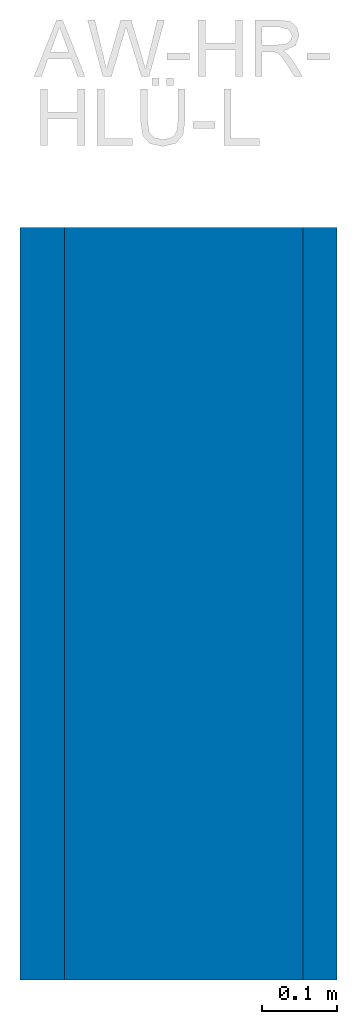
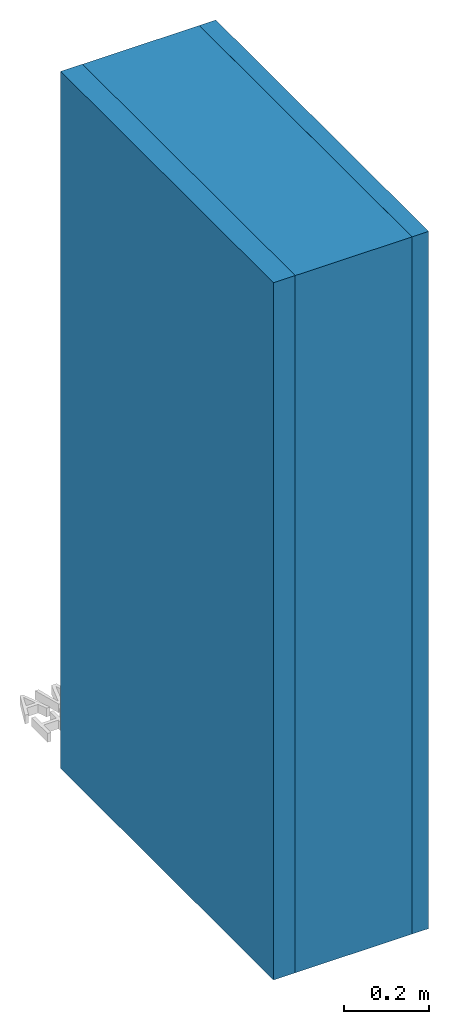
# Not in any storey, part 1 of 2: 3 walls, 1 element without a shape of its own.
"""IFC4 model written with IfcOpenShell, lengths in metres."""

from ifc_helpers import new_model, entity, si_unit, converted_unit, derived_unit, direction, frame, origin, place, context, subcontext, project, spatial, indexed_curve, outline, extrude, material, constituent, constituent_set, type_object, element, aggregate, save


model = new_model("IFC4")

# Units and contexts
model_context = context("Model", 3, precision=1e-05, world=origin(), true_north=direction((6.123031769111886e-17, 1.0)))
body_context = subcontext(model_context, "Body", "Model", "MODEL_VIEW")
ifc_project = project(units=[si_unit("LENGTHUNIT", "METRE"), si_unit("AREAUNIT", "SQUARE_METRE"), si_unit("VOLUMEUNIT", "CUBIC_METRE"), converted_unit("PLANEANGLEUNIT", "DEGREE", entity("IfcRatioMeasure", 0.017453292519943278), si_unit("PLANEANGLEUNIT", "RADIAN"), dimensions=[0, 0, 0, 0, 0, 0, 0]), si_unit("MASSUNIT", "GRAM", prefix="KILO"), derived_unit("MASSDENSITYUNIT", [(si_unit("MASSUNIT", "GRAM", prefix="KILO"), 1), (si_unit("LENGTHUNIT", "METRE"), -3)]), derived_unit("IONCONCENTRATIONUNIT", [(si_unit("MASSUNIT", "GRAM", prefix="KILO"), 1), (si_unit("LENGTHUNIT", "METRE"), -3)]), derived_unit("MOMENTOFINERTIAUNIT", [(si_unit("LENGTHUNIT", "METRE"), 4)]), si_unit("TIMEUNIT", "SECOND"), si_unit("FREQUENCYUNIT", "HERTZ"), si_unit("THERMODYNAMICTEMPERATUREUNIT", "DEGREE_CELSIUS"), derived_unit("THERMALTRANSMITTANCEUNIT", [(si_unit("MASSUNIT", "GRAM", prefix="KILO"), 1), (si_unit("THERMODYNAMICTEMPERATUREUNIT", "KELVIN"), -1), (si_unit("TIMEUNIT", "SECOND"), -3)]), derived_unit("THERMALCONDUCTANCEUNIT", [(si_unit("MASSUNIT", "GRAM", prefix="KILO"), 1), (si_unit("THERMODYNAMICTEMPERATUREUNIT", "KELVIN"), -1), (si_unit("TIMEUNIT", "SECOND"), -3), (si_unit("LENGTHUNIT", "METRE"), 1)]), derived_unit("VOLUMETRICFLOWRATEUNIT", [(si_unit("LENGTHUNIT", "METRE"), 3), (si_unit("TIMEUNIT", "SECOND"), -1)]), derived_unit("MASSFLOWRATEUNIT", [(si_unit("MASSUNIT", "GRAM", prefix="KILO"), 1), (si_unit("TIMEUNIT", "SECOND"), -1)]), derived_unit("ROTATIONALFREQUENCYUNIT", [(si_unit("TIMEUNIT", "SECOND"), -1)]), si_unit("ELECTRICCURRENTUNIT", "AMPERE"), si_unit("ELECTRICVOLTAGEUNIT", "VOLT"), si_unit("POWERUNIT", "WATT"), si_unit("FORCEUNIT", "NEWTON", prefix="KILO"), si_unit("ILLUMINANCEUNIT", "LUX"), si_unit("LUMINOUSFLUXUNIT", "LUMEN"), si_unit("LUMINOUSINTENSITYUNIT", "CANDELA"), derived_unit("USERDEFINED", [(si_unit("MASSUNIT", "GRAM", prefix="KILO"), -1), (si_unit("LENGTHUNIT", "METRE"), -2), (si_unit("TIMEUNIT", "SECOND"), 3), (si_unit("LUMINOUSFLUXUNIT", "LUMEN"), 1)]), derived_unit("USERDEFINED", [(si_unit("MASSUNIT", "GRAM", prefix="KILO"), 1), (si_unit("TIMEUNIT", "SECOND"), -3), (si_unit("LENGTHUNIT", "METRE"), 3), (si_unit("ELECTRICCURRENTUNIT", "AMPERE"), -2)]), derived_unit("SOUNDPOWERUNIT", [(si_unit("MASSUNIT", "GRAM", prefix="KILO"), 1), (si_unit("TIMEUNIT", "SECOND"), -3), (si_unit("LENGTHUNIT", "METRE"), 2)]), derived_unit("SOUNDPRESSUREUNIT", [(si_unit("MASSUNIT", "GRAM", prefix="KILO"), 1), (si_unit("LENGTHUNIT", "METRE"), -1), (si_unit("TIMEUNIT", "SECOND"), -2)]), derived_unit("LINEARVELOCITYUNIT", [(si_unit("LENGTHUNIT", "METRE"), 1), (si_unit("TIMEUNIT", "SECOND"), -1)]), si_unit("PRESSUREUNIT", "PASCAL"), derived_unit("USERDEFINED", [(si_unit("MASSUNIT", "GRAM", prefix="KILO"), 1), (si_unit("LENGTHUNIT", "METRE"), -2), (si_unit("TIMEUNIT", "SECOND"), -2)]), derived_unit("LINEARFORCEUNIT", [(si_unit("MASSUNIT", "GRAM", prefix="KILO"), 1), (si_unit("TIMEUNIT", "SECOND"), -2)]), derived_unit("PLANARFORCEUNIT", [(si_unit("MASSUNIT", "GRAM", prefix="KILO"), 1), (si_unit("LENGTHUNIT", "METRE"), -1), (si_unit("TIMEUNIT", "SECOND"), -2)]), derived_unit("SPECIFICHEATCAPACITYUNIT", [(si_unit("THERMODYNAMICTEMPERATUREUNIT", "KELVIN"), -1), (si_unit("LENGTHUNIT", "METRE"), 2), (si_unit("TIMEUNIT", "SECOND"), -2)]), derived_unit("HEATINGVALUEUNIT", [(si_unit("LENGTHUNIT", "METRE"), 2), (si_unit("TIMEUNIT", "SECOND"), -2)]), derived_unit("VAPORPERMEABILITYUNIT", [(si_unit("LENGTHUNIT", "METRE"), -1), (si_unit("TIMEUNIT", "SECOND"), 1)]), derived_unit("DYNAMICVISCOSITYUNIT", [(si_unit("MASSUNIT", "GRAM", prefix="KILO"), 1), (si_unit("TIMEUNIT", "SECOND"), -1), (si_unit("LENGTHUNIT", "METRE"), -1)]), derived_unit("THERMALEXPANSIONCOEFFICIENTUNIT", [(si_unit("THERMODYNAMICTEMPERATUREUNIT", "KELVIN"), -1)]), derived_unit("MODULUSOFELASTICITYUNIT", [(si_unit("MASSUNIT", "GRAM", prefix="KILO"), 1), (si_unit("LENGTHUNIT", "METRE"), -1), (si_unit("TIMEUNIT", "SECOND"), -2)]), derived_unit("ISOTHERMALMOISTURECAPACITYUNIT", [(si_unit("LENGTHUNIT", "METRE"), 3), (si_unit("MASSUNIT", "GRAM", prefix="KILO"), -1)]), derived_unit("MOISTUREDIFFUSIVITYUNIT", [(si_unit("TIMEUNIT", "SECOND"), -1), (si_unit("LENGTHUNIT", "METRE"), 2)])], contexts=[model_context])

# Site
site_placement = place(None, origin())
site = spatial("IfcSite", under=ifc_project, at=site_placement, Name="Default", CompositionType="ELEMENT")

# Assembly, walls
assembly_placement = place(site_placement, origin())
assembly = element("IfcElementAssembly", 1, at=assembly_placement, inside=site, Name="Wände Baugruppe:fbimSg_Wall_bc_WOD_vis_at_NTR_natuREbuilt_AW-HR-HLÜ-L_GK3_42cm", ObjectType="Wände Baugruppe:fbimSg_Wall_bc_WOD_vis_at_NTR_natuREbuilt_AW-HR-HLÜ-L_GK3_42cm", AssemblyPlace="NOTDEFINED", PredefinedType="USERDEFINED")
ifc_material_1 = material(Name="fbim_12400515_AT_025_Vollholz_Bretter_Fichte")
ifc_constituent_1 = constituent(ifc_material_1, Name="fbim_12400515_AT_025_Vollholz_Bretter_Fichte")
ifc_material_2 = material(Name="fbim_14100590_AT_001_Luftschicht")
ifc_constituent_2 = constituent(ifc_material_2, Name="fbim_14100590_AT_001_Luftschicht")
ifc_constituent_set_1 = constituent_set(constituents=[ifc_constituent_1, ifc_constituent_2], Name="Basiswand:fbimSg_Wall_dp_WOD_vis_at_NTR_natuREbuilt_AWRh-I_GK3_a_4cm")
wall_type_1 = type_object("IfcWallType", Name="Basiswand:fbimSg_Wall_dp_WOD_vis_at_NTR_natuREbuilt_AWRh-I_GK3_a_4cm", PredefinedType="STANDARD", material=ifc_constituent_set_1)
wall_1_placement = place(assembly_placement, frame((3.2522948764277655, 47.65434946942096, 0.0), z_axis=(0.0, 0.0, 1.0), x_axis=(0.0, -1.0, 0.0)))
wall_1 = element("IfcWall", 2, at=wall_1_placement, type_object=wall_type_1, material=ifc_constituent_set_1, Name="Basiswand:fbimSg_Wall_dp_WOD_vis_at_NTR_natuREbuilt_AWRh-I_GK3_a_4cm", ObjectType="Basiswand:fbimSg_Wall_dp_WOD_vis_at_NTR_natuREbuilt_AWRh-I_GK3_a_4cm", PredefinedType="NOTDEFINED", context=body_context, shape_type="SweptSolid", body=[
    extrude(outline(indexed_curve([(-0.020000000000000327, -0.49999999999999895), (0.019999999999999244, -0.4999999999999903), (0.020000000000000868, 0.49999999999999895), (-0.019999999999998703, 0.49999999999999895), (-0.020000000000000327, -0.49999999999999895)], self_intersect=False)), frame((0.49999999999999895, 0.009500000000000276, 0.0), z_axis=(0.0, 0.0, 1.0), x_axis=(0.0, -1.0, 0.0)), (0.0, 0.0, 1.0), 1.9999999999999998),
    extrude(outline(indexed_curve([(-0.00950000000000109, -0.49999999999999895), (0.009499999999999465, -0.49999999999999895), (0.00950000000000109, 0.49999999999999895), (-0.009499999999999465, 0.49999999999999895), (-0.00950000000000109, -0.49999999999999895)], self_intersect=False)), frame((0.49999999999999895, -0.02000000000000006, 0.0), z_axis=(0.0, 0.0, 1.0), x_axis=(0.0, 1.0, 0.0)), (0.0, 0.0, 1.0), 1.9999999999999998),
])
ifc_constituent_3 = constituent(ifc_material_1, Name="fbim_12400515_AT_025_Vollholz_Bretter_Fichte")
ifc_material_3 = material(Name="fbim_14100500_at_NTR_Zellulose-Einblasdaemmung")
ifc_constituent_4 = constituent(ifc_material_3, Name="fbim_14100500_at_NTR_Zellulose-Einblasdaemmung")
ifc_material_4 = material(Name="fbim_12401520_AT_OSB")
ifc_constituent_5 = constituent(ifc_material_4, Name="fbim_12401520_AT_OSB")
ifc_constituent_set_2 = constituent_set(constituents=[ifc_constituent_3, ifc_constituent_4, ifc_constituent_5], Name="Basiswand:fbimSg_Wall_sb_WOD_vis_at_NTR_natuREbuilt_AWRh-I_GK3_k_28cm")
wall_type_2 = type_object("IfcWallType", Name="Basiswand:fbimSg_Wall_sb_WOD_vis_at_NTR_natuREbuilt_AWRh-I_GK3_k_28cm", PredefinedType="STANDARD", material=ifc_constituent_set_2)
wall_2_placement = place(assembly_placement, frame((3.4402948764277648, 47.65434946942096, 0.0), z_axis=(0.0, 0.0, 1.0), x_axis=(0.0, -1.0, 0.0)))
wall_2 = element("IfcWall", 3, at=wall_2_placement, type_object=wall_type_2, material=ifc_constituent_set_2, Name="Basiswand:fbimSg_Wall_sb_WOD_vis_at_NTR_natuREbuilt_AWRh-I_GK3_k_28cm", ObjectType="Basiswand:fbimSg_Wall_sb_WOD_vis_at_NTR_natuREbuilt_AWRh-I_GK3_k_28cm", PredefinedType="NOTDEFINED", context=body_context, shape_type="SweptSolid", body=[
    extrude(outline(indexed_curve([(-0.007500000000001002, -0.49999999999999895), (0.007499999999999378, -0.49999999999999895), (0.007500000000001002, 0.49999999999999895), (-0.007499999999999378, 0.49999999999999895), (-0.007500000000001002, -0.49999999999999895)], self_intersect=False)), frame((0.49999999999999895, 0.15100000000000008, 0.0), z_axis=(0.0, 0.0, 1.0), x_axis=(0.0, -1.0, 0.0)), (0.0, 0.0, 1.0), 1.9999999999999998),
    extrude(outline(indexed_curve([(-0.4999999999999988, -0.13999999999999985), (0.49999999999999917, -0.13999999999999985), (0.4999999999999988, 0.13999999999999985), (-0.49999999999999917, 0.13999999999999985), (-0.4999999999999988, -0.13999999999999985)], self_intersect=False)), frame((0.49999999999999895, 0.0035000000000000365, 0.0)), (0.0, 0.0, 1.0), 1.9999999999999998),
    extrude(outline(indexed_curve([(-0.011000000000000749, -0.49999999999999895), (0.010999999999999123, -0.49999999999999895), (0.011000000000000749, 0.49999999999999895), (-0.010999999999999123, 0.49999999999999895), (-0.011000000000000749, -0.49999999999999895)], self_intersect=False)), frame((0.49999999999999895, -0.14749999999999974, 0.0), z_axis=(0.0, 0.0, 1.0), x_axis=(0.0, 1.0, 0.0)), (0.0, 0.0, 1.0), 1.9999999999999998),
])
ifc_material_5 = material(Name="fbim_16200505_at_NTR_Lehm_Grundputz", Category="Verschiedene")
ifc_constituent_6 = constituent(ifc_material_5, Name="fbim_16200505_at_NTR_Lehm_Grundputz", Category="Verschiedene")
ifc_material_6 = material(Name="fbim_16200510_at_NTR_Lehm_Duennputz", Category="Verschiedene")
ifc_constituent_7 = constituent(ifc_material_6, Name="fbim_16200510_at_NTR_Lehm_Duennputz", Category="Verschiedene")
ifc_constituent_set_3 = constituent_set(constituents=[ifc_constituent_6, ifc_constituent_7], Name="Basiswand:fbimSg_Wall_dp_PLA_vis_at_NTR_natuREbuilt_AWRh-I_GK3_i_Lehm")
wall_type_3 = type_object("IfcWallType", Name="Basiswand:fbimSg_Wall_dp_PLA_vis_at_NTR_natuREbuilt_AWRh-I_GK3_i_Lehm", PredefinedType="STANDARD", material=ifc_constituent_set_3)
wall_3_placement = place(assembly_placement, frame((3.6212948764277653, 47.65434946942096, 0.0), z_axis=(0.0, 0.0, 1.0), x_axis=(0.0, -1.0, 0.0)))
wall_3 = element("IfcWall", 4, at=wall_3_placement, type_object=wall_type_3, material=ifc_constituent_set_3, Name="Basiswand:fbimSg_Wall_dp_PLA_vis_at_NTR_natuREbuilt_AWRh-I_GK3_i_Lehm", ObjectType="Basiswand:fbimSg_Wall_dp_PLA_vis_at_NTR_natuREbuilt_AWRh-I_GK3_i_Lehm", PredefinedType="NOTDEFINED", context=body_context, shape_type="SweptSolid", body=[
    extrude(outline(indexed_curve([(-0.002500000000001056, -0.49999999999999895), (0.0024999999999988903, -0.49999999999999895), (0.0025000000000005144, 0.49999999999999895), (-0.0024999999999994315, 0.49999999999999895), (-0.002500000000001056, -0.49999999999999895)], self_intersect=False)), frame((0.49999999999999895, 0.019999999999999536, 0.0), z_axis=(0.0, 0.0, 1.0), x_axis=(0.0, -1.0, 0.0)), (0.0, 0.0, 1.0), 1.9999999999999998),
    extrude(outline(indexed_curve([(-0.02000000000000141, -0.49999999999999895), (0.019999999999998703, -0.4999999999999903), (0.020000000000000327, 0.49999999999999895), (-0.019999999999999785, 0.49999999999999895), (-0.02000000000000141, -0.49999999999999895)], self_intersect=False)), frame((0.49999999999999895, -0.002499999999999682, 0.0), z_axis=(0.0, 0.0, 1.0), x_axis=(0.0, 1.0, 0.0)), (0.0, 0.0, 1.0), 1.9999999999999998),
])
aggregate(assembly, [wall_1, wall_2, wall_3])

save(model, "model.ifc")
